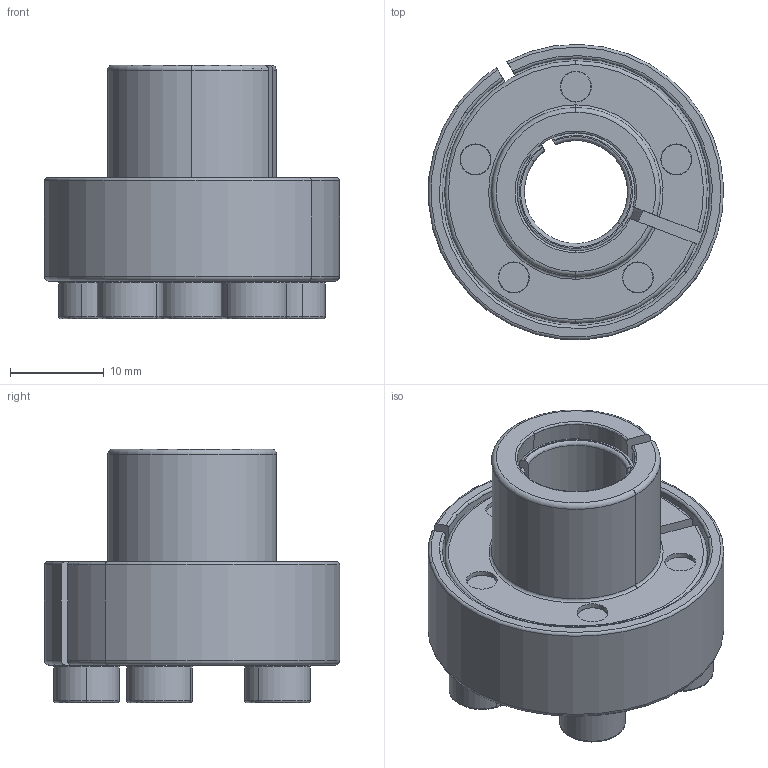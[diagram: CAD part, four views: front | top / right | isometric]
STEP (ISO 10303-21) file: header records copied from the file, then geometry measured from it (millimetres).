
FILE_DESCRIPTION (( 'STEP AP203' ), '1' );
FILE_NAME ('SAPL-C-11-18.STEP', '2013-07-23T08:09:09', ( 'MYCOM' ), ( '' ), 'SwSTEP 2.0', 'SolidWorks 2012', '' );
FILE_SCHEMA (( 'CONFIG_CONTROL_DESIGN' ));
Length unit declared in the file: millimetre
Products named in the file (1): SAPL-C-11-18
Bounding box: 31.45 x 31.46 x 27 mm (x, y, z)
Volume: 8464.8 mm3; surface area: 7423.1 mm2
Topology: 1 solids, 1 shells, 279 faces, 674 edges, 405 vertices
Faces by surface type: plane 88, cylinder 80, torus 66, cone 45
Entity records: 8304 total; most frequent: DIRECTION 1552, CARTESIAN_POINT 1512, ORIENTED_EDGE 1328, EDGE_CURVE 664, AXIS2_PLACEMENT_3D 642, VERTEX_POINT 405, CIRCLE 362, EDGE_LOOP 315
